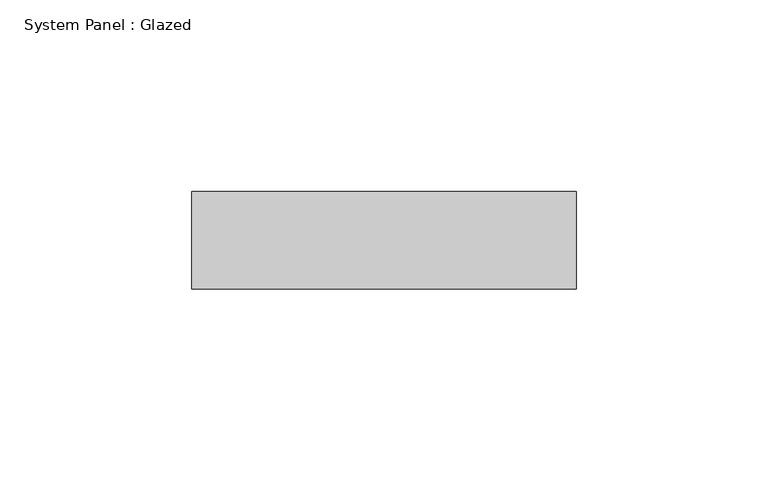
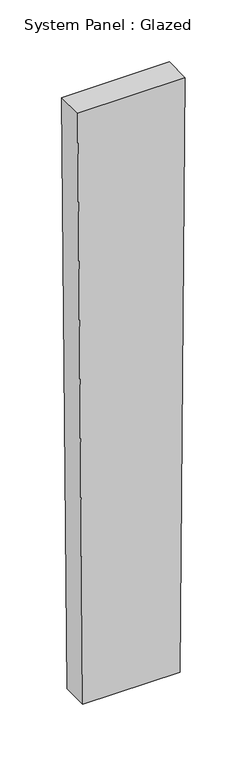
"""IFC4 building model written with IfcOpenShell, lengths in millimetres: plate geometry, System Panel : Glazed."""

from ifc_helpers import new_model, si_unit, frame, origin, place, context, project, spatial, polyline, outline, extrude, source, transform, mapped, element, save


def system_panel_glazed_6f3b0dd0(model_context):
    return source(origin(), model_context, "Body", "SweptSolid", [
        extrude(outline(polyline([(0.0, -45.3410344), (0.0, 45.3410344), (584.1795815, 50.1225046), (584.1795815, -50.1225046), (0.0, -45.3410344)])), frame((0.0, -44.45, 0.0), z_axis=(0.0, 1.0, 0.0), x_axis=(0.0, 0.0, 1.0)), (0.0, 0.0, 1.0), 25.4),
    ])


if __name__ == "__main__":
    model = new_model("IFC4")
    model_context = context("Model", 3, world=origin())
    ifc_project = project(units=[si_unit("LENGTHUNIT", "METRE", prefix="MILLI")], contexts=[model_context])
    site = spatial("IfcSite", under=ifc_project)
    building = spatial("IfcBuilding", under=site)
    placement = place(None, origin())
    system_panel_glazed_shape = system_panel_glazed_6f3b0dd0(model_context)
    element("IfcPlate", 1, ObjectType="System Panel : Glazed", at=placement, inside=building, context=model_context, shape_type="MappedRepresentation", body=[
        mapped(system_panel_glazed_shape, transform((0.0, 0.0, 0.0), x_axis=(1.0, 0.0, 0.0), y_axis=(0.0, 1.0, 0.0), z_axis=(0.0, 0.0, 1.0))),
    ])
    save(model, "model.ifc")
